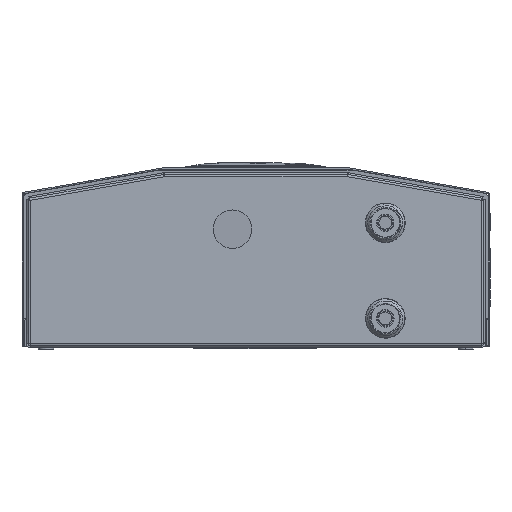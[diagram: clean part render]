
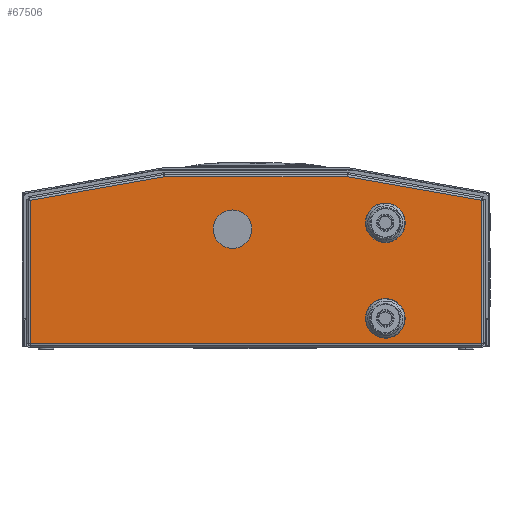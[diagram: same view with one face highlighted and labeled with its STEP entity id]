
A CAD part, front view. The second image highlights one B-rep face of the part: STEP entity #67506.
In plain terms, the highlighted planar face has unit normal (0, -1, 0).
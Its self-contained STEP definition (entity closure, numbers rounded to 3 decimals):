
#13473 = EDGE_CURVE ( 'NONE', #15261, #178578, #115274, .T. ) ;
#14228 = VERTEX_POINT ( 'NONE', #57280 ) ;
#14278 = ORIENTED_EDGE ( 'NONE', *, *, #134011, .T. ) ;
#15261 = VERTEX_POINT ( 'NONE', #34590 ) ;
#19945 = VERTEX_POINT ( 'NONE', #171871 ) ;
#24341 = ORIENTED_EDGE ( 'NONE', *, *, #94460, .F. ) ;
#30963 = FACE_BOUND ( 'NONE', #69060, .T. ) ;
#32324 = EDGE_CURVE ( 'NONE', #14228, #19945, #130892, .T. ) ;
#33891 = AXIS2_PLACEMENT_3D ( 'NONE', #82209, #184455, #96927 ) ;
#34590 = CARTESIAN_POINT ( 'NONE',  ( -193.576, -400., 124.766 ) ) ;
#34746 = CARTESIAN_POINT ( 'NONE',  ( -197., -400., 1.905 ) ) ;
#35590 = FACE_BOUND ( 'NONE', #68894, .T. ) ;
#38169 = PLANE ( 'NONE',  #134995 ) ;
#38382 = DIRECTION ( 'NONE',  ( 0., -1., 0. ) ) ;
#39831 = VERTEX_POINT ( 'NONE', #101619 ) ;
#41213 = EDGE_CURVE ( 'NONE', #154211, #114538, #131793, .T. ) ;
#46737 = VECTOR ( 'NONE', #184620, 1000. ) ;
#48445 = CARTESIAN_POINT ( 'NONE',  ( 193.576, -400., 1.905 ) ) ;
#49391 = DIRECTION ( 'NONE',  ( -1., 0., 0. ) ) ;
#52843 = DIRECTION ( 'NONE',  ( 0., 1., 0. ) ) ;
#54645 = EDGE_CURVE ( 'NONE', #19945, #14228, #152956, .T. ) ;
#57271 = ORIENTED_EDGE ( 'NONE', *, *, #162473, .F. ) ;
#57280 = CARTESIAN_POINT ( 'NONE',  ( -20., -400., 116.51 ) ) ;
#58436 = VERTEX_POINT ( 'NONE', #80836 ) ;
#59399 = EDGE_CURVE ( 'NONE', #39831, #15261, #108984, .T. ) ;
#61040 = VERTEX_POINT ( 'NONE', #48445 ) ;
#62782 = DIRECTION ( 'NONE',  ( -1., 0., 0. ) ) ;
#63380 = EDGE_LOOP ( 'NONE', ( #150918, #63838 ) ) ;
#63785 = VERTEX_POINT ( 'NONE', #144501 ) ;
#63838 = ORIENTED_EDGE ( 'NONE', *, *, #54645, .T. ) ;
#67506 = ADVANCED_FACE ( 'NONE', ( #30963, #35590, #147600, #69718 ), #38169, .F. ) ;
#68894 = EDGE_LOOP ( 'NONE', ( #70969, #24341 ) ) ;
#69060 = EDGE_LOOP ( 'NONE', ( #154035, #108230 ) ) ;
#69718 = FACE_OUTER_BOUND ( 'NONE', #171230, .T. ) ;
#69981 = VECTOR ( 'NONE', #139498, 1000. ) ;
#70850 = DIRECTION ( 'NONE',  ( 0., -1., 0. ) ) ;
#70969 = ORIENTED_EDGE ( 'NONE', *, *, #92722, .F. ) ;
#71922 = CIRCLE ( 'NONE', #93844, 12.7 ) ;
#72366 = CARTESIAN_POINT ( 'NONE',  ( -20., -400., 100. ) ) ;
#75348 = DIRECTION ( 'NONE',  ( -0.985, 0., 0.174 ) ) ;
#77137 = VECTOR ( 'NONE', #49391, 1000. ) ;
#78480 = DIRECTION ( 'NONE',  ( 0., -1., 0. ) ) ;
#80836 = CARTESIAN_POINT ( 'NONE',  ( 78.5, -400., 145.057 ) ) ;
#81495 = CARTESIAN_POINT ( 'NONE',  ( -197., -400., 148.481 ) ) ;
#82209 = CARTESIAN_POINT ( 'NONE',  ( -20., -400., 100. ) ) ;
#83984 = CARTESIAN_POINT ( 'NONE',  ( 111.05, -400., 10.781 ) ) ;
#86170 = DIRECTION ( 'NONE',  ( 0., -1., 0. ) ) ;
#86254 = LINE ( 'NONE', #34746, #77137 ) ;
#87045 = DIRECTION ( 'NONE',  ( 0., 0., 1. ) ) ;
#87642 = VERTEX_POINT ( 'NONE', #98300 ) ;
#89402 = CARTESIAN_POINT ( 'NONE',  ( 194.507, -400., 124.602 ) ) ;
#92722 = EDGE_CURVE ( 'NONE', #63785, #165730, #155881, .T. ) ;
#93844 = AXIS2_PLACEMENT_3D ( 'NONE', #158457, #70850, #173095 ) ;
#93907 = VECTOR ( 'NONE', #62782, 1000. ) ;
#94460 = EDGE_CURVE ( 'NONE', #165730, #63785, #189067, .T. ) ;
#94959 = VECTOR ( 'NONE', #75348, 1000. ) ;
#95306 = CARTESIAN_POINT ( 'NONE',  ( -78.5, -400., 145.057 ) ) ;
#96927 = DIRECTION ( 'NONE',  ( 0., 0., 1. ) ) ;
#98300 = CARTESIAN_POINT ( 'NONE',  ( 193.576, -400., 124.766 ) ) ;
#101619 = CARTESIAN_POINT ( 'NONE',  ( -78.5, -400., 145.057 ) ) ;
#102214 = ORIENTED_EDGE ( 'NONE', *, *, #59399, .T. ) ;
#104723 = DIRECTION ( 'NONE',  ( 0., 0., 1. ) ) ;
#106258 = CARTESIAN_POINT ( 'NONE',  ( 78.5, -400., 145.057 ) ) ;
#108230 = ORIENTED_EDGE ( 'NONE', *, *, #184776, .F. ) ;
#108984 = LINE ( 'NONE', #95306, #69981 ) ;
#110168 = EDGE_CURVE ( 'NONE', #58436, #39831, #142042, .T. ) ;
#111891 = CARTESIAN_POINT ( 'NONE',  ( -193.576, -400., 125.712 ) ) ;
#114538 = VERTEX_POINT ( 'NONE', #183556 ) ;
#115274 = LINE ( 'NONE', #111891, #46737 ) ;
#118775 = VECTOR ( 'NONE', #104723, 1000. ) ;
#125930 = CARTESIAN_POINT ( 'NONE',  ( 111.05, -400., 23.481 ) ) ;
#130892 = CIRCLE ( 'NONE', #33891, 16.51 ) ;
#131282 = ORIENTED_EDGE ( 'NONE', *, *, #13473, .T. ) ;
#131793 = CIRCLE ( 'NONE', #188503, 12.7 ) ;
#134011 = EDGE_CURVE ( 'NONE', #61040, #87642, #157589, .T. ) ;
#134995 = AXIS2_PLACEMENT_3D ( 'NONE', #81495, #52843, #155081 ) ;
#136120 = CARTESIAN_POINT ( 'NONE',  ( 111.05, -400., 118.181 ) ) ;
#136653 = AXIS2_PLACEMENT_3D ( 'NONE', #72366, #174608, #87045 ) ;
#139498 = DIRECTION ( 'NONE',  ( -0.985, 0., -0.174 ) ) ;
#140629 = DIRECTION ( 'NONE',  ( 0., 0., -1. ) ) ;
#141260 = EDGE_CURVE ( 'NONE', #87642, #58436, #172688, .T. ) ;
#142042 = LINE ( 'NONE', #106258, #93907 ) ;
#143702 = ORIENTED_EDGE ( 'NONE', *, *, #110168, .T. ) ;
#144501 = CARTESIAN_POINT ( 'NONE',  ( 111.05, -400., 92.781 ) ) ;
#147600 = FACE_BOUND ( 'NONE', #63380, .T. ) ;
#150889 = CARTESIAN_POINT ( 'NONE',  ( -193.576, -400., 1.905 ) ) ;
#150918 = ORIENTED_EDGE ( 'NONE', *, *, #32324, .T. ) ;
#152956 = CIRCLE ( 'NONE', #136653, 16.51 ) ;
#154035 = ORIENTED_EDGE ( 'NONE', *, *, #41213, .F. ) ;
#154211 = VERTEX_POINT ( 'NONE', #83984 ) ;
#155081 = DIRECTION ( 'NONE',  ( 0., 0., 1. ) ) ;
#155881 = CIRCLE ( 'NONE', #169304, 12.7 ) ;
#157589 = LINE ( 'NONE', #177521, #118775 ) ;
#158457 = CARTESIAN_POINT ( 'NONE',  ( 111.05, -400., 23.481 ) ) ;
#160781 = ORIENTED_EDGE ( 'NONE', *, *, #141260, .T. ) ;
#160991 = AXIS2_PLACEMENT_3D ( 'NONE', #173747, #86170, #188415 ) ;
#162473 = EDGE_CURVE ( 'NONE', #61040, #178578, #86254, .T. ) ;
#165730 = VERTEX_POINT ( 'NONE', #136120 ) ;
#166075 = CARTESIAN_POINT ( 'NONE',  ( 111.05, -400., 105.481 ) ) ;
#169304 = AXIS2_PLACEMENT_3D ( 'NONE', #166075, #78480, #180728 ) ;
#171230 = EDGE_LOOP ( 'NONE', ( #131282, #57271, #14278, #160781, #143702, #102214 ) ) ;
#171871 = CARTESIAN_POINT ( 'NONE',  ( -20., -400., 83.49 ) ) ;
#172688 = LINE ( 'NONE', #89402, #94959 ) ;
#173095 = DIRECTION ( 'NONE',  ( 0., 0., -1. ) ) ;
#173747 = CARTESIAN_POINT ( 'NONE',  ( 111.05, -400., 105.481 ) ) ;
#174608 = DIRECTION ( 'NONE',  ( 0., 1., 0. ) ) ;
#177521 = CARTESIAN_POINT ( 'NONE',  ( 193.576, -400., 1.905 ) ) ;
#178578 = VERTEX_POINT ( 'NONE', #150889 ) ;
#180728 = DIRECTION ( 'NONE',  ( 0., 0., -1. ) ) ;
#183556 = CARTESIAN_POINT ( 'NONE',  ( 111.05, -400., 36.181 ) ) ;
#184455 = DIRECTION ( 'NONE',  ( 0., 1., 0. ) ) ;
#184620 = DIRECTION ( 'NONE',  ( 0., 0., -1. ) ) ;
#184776 = EDGE_CURVE ( 'NONE', #114538, #154211, #71922, .T. ) ;
#188415 = DIRECTION ( 'NONE',  ( 0., 0., -1. ) ) ;
#188503 = AXIS2_PLACEMENT_3D ( 'NONE', #125930, #38382, #140629 ) ;
#189067 = CIRCLE ( 'NONE', #160991, 12.7 ) ;
